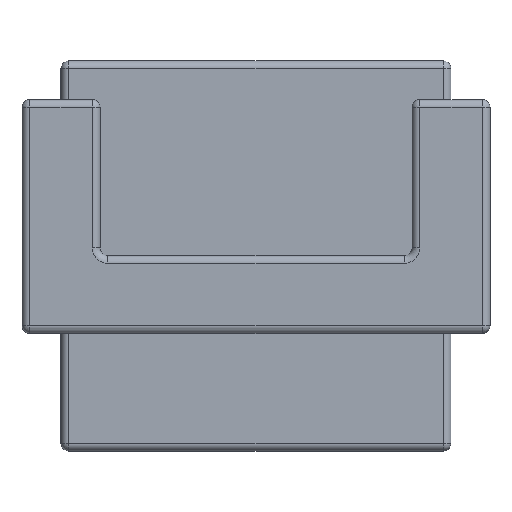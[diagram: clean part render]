
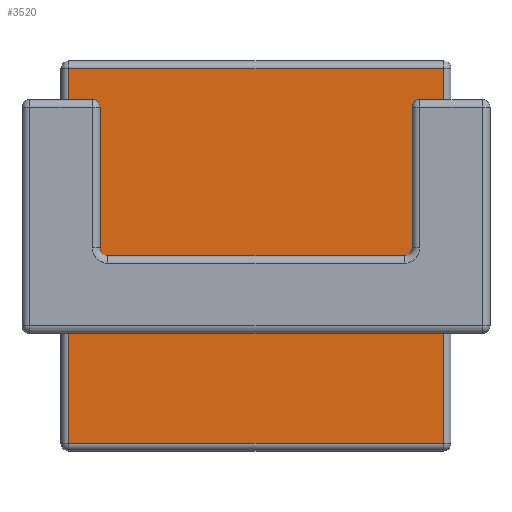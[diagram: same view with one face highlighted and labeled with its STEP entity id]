
A CAD part, top view. The second image highlights one B-rep face of the part: STEP entity #3520.
In plain terms, the highlighted planar face has unit normal (0, 0, 1).
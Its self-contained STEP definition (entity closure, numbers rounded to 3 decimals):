
#2430=CARTESIAN_POINT('',(0.,0.,3.));
#2440=DIRECTION('',(0.,0.,1.));
#2450=DIRECTION('',(1.,0.,0.));
#2460=AXIS2_PLACEMENT_3D('',#2430,#2440,#2450);
#2470=PLANE('',#2460);
#2480=CARTESIAN_POINT('',(10.,0.,3.));
#2490=DIRECTION('',(-0.,1.,0.));
#2500=VECTOR('',#2490,1.);
#2510=LINE('',#2480,#2500);
#2520=CARTESIAN_POINT('',(10.,-9.,3.));
#2530=VERTEX_POINT('',#2520);
#2540=CARTESIAN_POINT('',(10.,-1.,3.));
#2550=VERTEX_POINT('',#2540);
#2560=EDGE_CURVE('',#2530,#2550,#2510,.T.);
#2570=ORIENTED_EDGE('',*,*,#2560,.F.);
#2580=CARTESIAN_POINT('',(9.,-1.,3.));
#2590=DIRECTION('',(0.,0.,1.));
#2600=DIRECTION('',(1.,0.,0.));
#2610=AXIS2_PLACEMENT_3D('',#2580,#2590,#2600);
#2620=CIRCLE('',#2610,1.);
#2630=CARTESIAN_POINT('',(9.,-0.,3.));
#2640=VERTEX_POINT('',#2630);
#2650=EDGE_CURVE('',#2550,#2640,#2620,.T.);
#2660=ORIENTED_EDGE('',*,*,#2650,.F.);
#2670=CARTESIAN_POINT('',(0.,-0.,3.));
#2680=DIRECTION('',(-1.,0.,0.));
#2690=VECTOR('',#2680,1.);
#2700=LINE('',#2670,#2690);
#2710=CARTESIAN_POINT('',(-9.,0.,3.));
#2720=VERTEX_POINT('',#2710);
#2730=EDGE_CURVE('',#2640,#2720,#2700,.T.);
#2740=ORIENTED_EDGE('',*,*,#2730,.F.);
#2750=CARTESIAN_POINT('',(-9.,-1.,3.));
#2760=DIRECTION('',(0.,0.,1.));
#2770=DIRECTION('',(1.,0.,0.));
#2780=AXIS2_PLACEMENT_3D('',#2750,#2760,#2770);
#2790=CIRCLE('',#2780,1.);
#2800=CARTESIAN_POINT('',(-10.,-1.,3.));
#2810=VERTEX_POINT('',#2800);
#2820=EDGE_CURVE('',#2720,#2810,#2790,.T.);
#2830=ORIENTED_EDGE('',*,*,#2820,.F.);
#2840=CARTESIAN_POINT('',(-10.,0.,3.));
#2850=DIRECTION('',(-0.,-1.,0.));
#2860=VECTOR('',#2850,1.);
#2870=LINE('',#2840,#2860);
#2880=CARTESIAN_POINT('',(-10.,-9.,3.));
#2890=VERTEX_POINT('',#2880);
#2900=EDGE_CURVE('',#2810,#2890,#2870,.T.);
#2910=ORIENTED_EDGE('',*,*,#2900,.F.);
#2920=CARTESIAN_POINT('',(-9.,-9.,3.));
#2930=DIRECTION('',(0.,0.,-1.));
#2940=DIRECTION('',(-1.,0.,0.));
#2950=AXIS2_PLACEMENT_3D('',#2920,#2930,#2940);
#2960=CIRCLE('',#2950,1.);
#2970=CARTESIAN_POINT('',(-9.,-10.,3.));
#2980=VERTEX_POINT('',#2970);
#2990=EDGE_CURVE('',#2980,#2890,#2960,.T.);
#3000=ORIENTED_EDGE('',*,*,#2990,.T.);
#3010=CARTESIAN_POINT('',(0.,-10.,3.));
#3020=DIRECTION('',(1.,0.,-0.));
#3030=VECTOR('',#3020,1.);
#3040=LINE('',#3010,#3030);
#3050=CARTESIAN_POINT('',(9.,-10.,3.));
#3060=VERTEX_POINT('',#3050);
#3070=EDGE_CURVE('',#2980,#3060,#3040,.T.);
#3080=ORIENTED_EDGE('',*,*,#3070,.F.);
#3090=CARTESIAN_POINT('',(9.,-9.,3.));
#3100=DIRECTION('',(0.,0.,1.));
#3110=DIRECTION('',(1.,0.,0.));
#3120=AXIS2_PLACEMENT_3D('',#3090,#3100,#3110);
#3130=CIRCLE('',#3120,1.);
#3140=EDGE_CURVE('',#3060,#2530,#3130,.T.);
#3150=ORIENTED_EDGE('',*,*,#3140,.F.);
#3160=EDGE_LOOP('',(#3150,#3080,#3000,#2910,#2830,#2740,#2660,#2570));
#3170=FACE_BOUND('',#3160,.T.);
#3180=CARTESIAN_POINT('',(24.,0.,3.));
#3190=DIRECTION('',(0.,-1.,0.));
#3200=VECTOR('',#3190,1.);
#3210=LINE('',#3180,#3200);
#3220=CARTESIAN_POINT('',(24.,24.,3.));
#3230=VERTEX_POINT('',#3220);
#3240=CARTESIAN_POINT('',(24.,-24.,3.));
#3250=VERTEX_POINT('',#3240);
#3260=EDGE_CURVE('',#3230,#3250,#3210,.T.);
#3270=ORIENTED_EDGE('',*,*,#3260,.F.);
#3280=CARTESIAN_POINT('',(0.,-24.,3.));
#3290=DIRECTION('',(1.,0.,0.));
#3300=VECTOR('',#3290,1.);
#3310=LINE('',#3280,#3300);
#3320=CARTESIAN_POINT('',(-24.,-24.,3.));
#3330=VERTEX_POINT('',#3320);
#3340=EDGE_CURVE('',#3330,#3250,#3310,.T.);
#3350=ORIENTED_EDGE('',*,*,#3340,.T.);
#3360=CARTESIAN_POINT('',(-24.,0.,3.));
#3370=DIRECTION('',(0.,1.,0.));
#3380=VECTOR('',#3370,1.);
#3390=LINE('',#3360,#3380);
#3400=CARTESIAN_POINT('',(-24.,24.,3.));
#3410=VERTEX_POINT('',#3400);
#3420=EDGE_CURVE('',#3330,#3410,#3390,.T.);
#3430=ORIENTED_EDGE('',*,*,#3420,.F.);
#3440=CARTESIAN_POINT('',(0.,24.,3.));
#3450=DIRECTION('',(1.,0.,0.));
#3460=VECTOR('',#3450,1.);
#3470=LINE('',#3440,#3460);
#3480=EDGE_CURVE('',#3410,#3230,#3470,.T.);
#3490=ORIENTED_EDGE('',*,*,#3480,.F.);
#3500=EDGE_LOOP('',(#3490,#3430,#3350,#3270));
#3510=FACE_OUTER_BOUND('',#3500,.T.);
#3520=ADVANCED_FACE('',(#3170,#3510),#2470,.T.);
